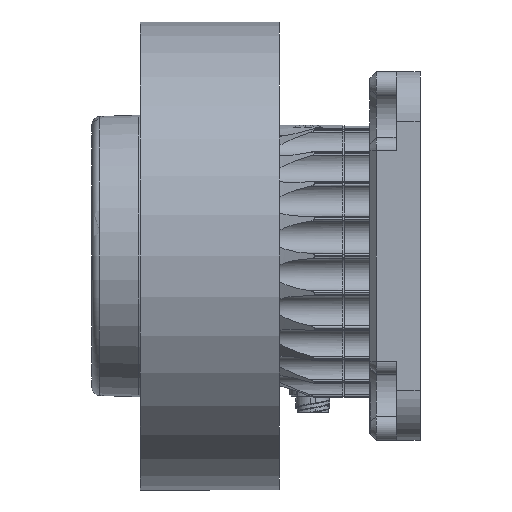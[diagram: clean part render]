
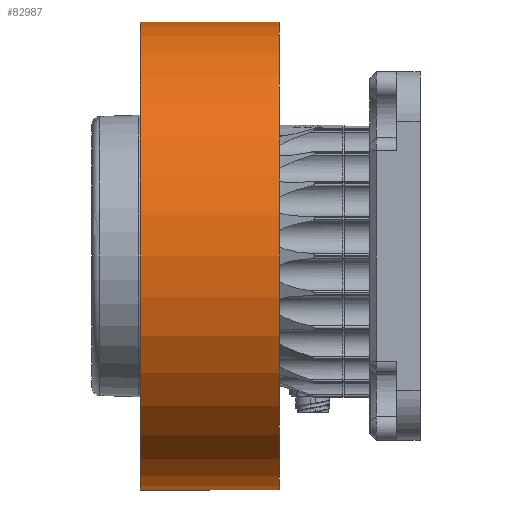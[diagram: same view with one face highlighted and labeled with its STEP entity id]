
A CAD part, left-side view. The second image highlights one B-rep face of the part: STEP entity #82987.
In plain terms, the highlighted cylindrical face has radius 69.759 mm (diameter 139.518 mm), a partial arc.
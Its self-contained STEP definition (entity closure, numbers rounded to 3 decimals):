
#3434 = ORIENTED_EDGE ( 'NONE', *, *, #92898, .T. ) ;
#8457 = DIRECTION ( 'NONE',  ( 0., 1., 0. ) ) ;
#10414 = CARTESIAN_POINT ( 'NONE',  ( 0., 65.5, -69.759 ) ) ;
#11022 = LINE ( 'NONE', #10414, #120048 ) ;
#12716 = DIRECTION ( 'NONE',  ( 0., 0., 1. ) ) ;
#14283 = VERTEX_POINT ( 'NONE', #20802 ) ;
#15766 = CARTESIAN_POINT ( 'NONE',  ( 0., 60.939, -69.759 ) ) ;
#20802 = CARTESIAN_POINT ( 'NONE',  ( 0., 19.517, 69.759 ) ) ;
#21029 = CARTESIAN_POINT ( 'NONE',  ( 0., 60.939, 0. ) ) ;
#22420 = CARTESIAN_POINT ( 'NONE',  ( 0., 19.517, -69.759 ) ) ;
#28321 = EDGE_CURVE ( 'NONE', #77857, #50388, #11022, .T. ) ;
#29067 = CARTESIAN_POINT ( 'NONE',  ( 0., 65.5, 0. ) ) ;
#37001 = CARTESIAN_POINT ( 'NONE',  ( 0., 19.517, 0. ) ) ;
#37368 = DIRECTION ( 'NONE',  ( 0., 1., 0. ) ) ;
#37794 = CARTESIAN_POINT ( 'NONE',  ( 0., 65.5, 69.759 ) ) ;
#44742 = DIRECTION ( 'NONE',  ( 0., 1., 0. ) ) ;
#47399 = VECTOR ( 'NONE', #8457, 1000. ) ;
#47797 = AXIS2_PLACEMENT_3D ( 'NONE', #21029, #118605, #12716 ) ;
#49380 = DIRECTION ( 'NONE',  ( 0., 1., 0. ) ) ;
#50388 = VERTEX_POINT ( 'NONE', #15766 ) ;
#57173 = VERTEX_POINT ( 'NONE', #62781 ) ;
#57530 = DIRECTION ( 'NONE',  ( 0., 0., 1. ) ) ;
#62781 = CARTESIAN_POINT ( 'NONE',  ( 0., 60.939, 69.759 ) ) ;
#63327 = CIRCLE ( 'NONE', #106085, 69.759 ) ;
#70149 = CIRCLE ( 'NONE', #47797, 69.759 ) ;
#75707 = FACE_OUTER_BOUND ( 'NONE', #126109, .T. ) ;
#76537 = ORIENTED_EDGE ( 'NONE', *, *, #94998, .T. ) ;
#77857 = VERTEX_POINT ( 'NONE', #22420 ) ;
#79794 = ORIENTED_EDGE ( 'NONE', *, *, #28321, .F. ) ;
#82987 = ADVANCED_FACE ( 'NONE', ( #75707 ), #125403, .T. ) ;
#87236 = EDGE_CURVE ( 'NONE', #50388, #57173, #70149, .T. ) ;
#92898 = EDGE_CURVE ( 'NONE', #77857, #14283, #63327, .T. ) ;
#94998 = EDGE_CURVE ( 'NONE', #14283, #57173, #115623, .T. ) ;
#105357 = AXIS2_PLACEMENT_3D ( 'NONE', #29067, #37368, #116442 ) ;
#106085 = AXIS2_PLACEMENT_3D ( 'NONE', #37001, #44742, #57530 ) ;
#115623 = LINE ( 'NONE', #37794, #47399 ) ;
#116442 = DIRECTION ( 'NONE',  ( 0., 0., 1. ) ) ;
#118526 = ORIENTED_EDGE ( 'NONE', *, *, #87236, .F. ) ;
#118605 = DIRECTION ( 'NONE',  ( 0., 1., 0. ) ) ;
#120048 = VECTOR ( 'NONE', #49380, 1000. ) ;
#125403 = CYLINDRICAL_SURFACE ( 'NONE', #105357, 69.759 ) ;
#126109 = EDGE_LOOP ( 'NONE', ( #79794, #3434, #76537, #118526 ) ) ;
